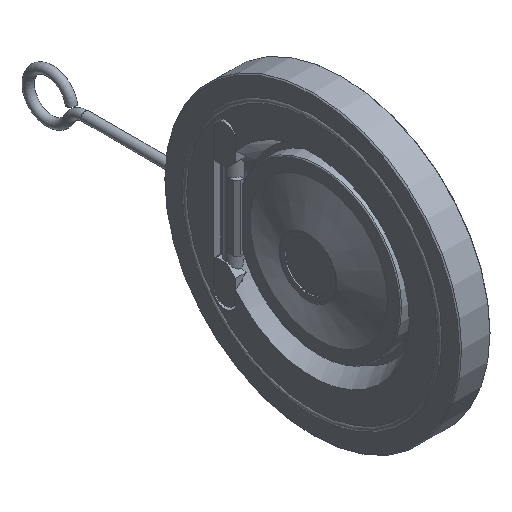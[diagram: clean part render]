
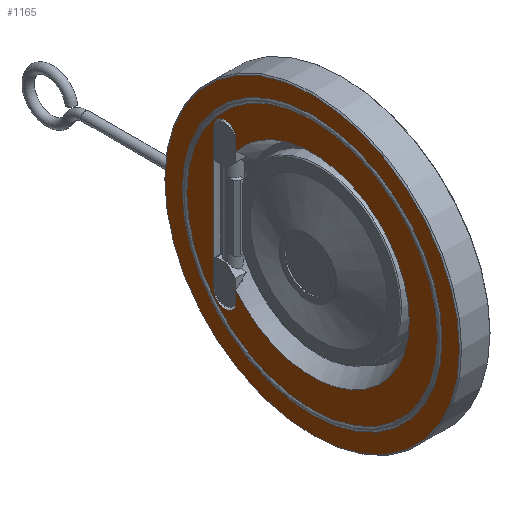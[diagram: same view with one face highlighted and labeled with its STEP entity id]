
A CAD part, isometric view. The second image highlights one B-rep face of the part: STEP entity #1165.
In plain terms, the highlighted planar face has unit normal (-1, 0, 0).
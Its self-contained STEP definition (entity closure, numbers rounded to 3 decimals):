
#38=FACE_BOUND('',#280,.T.);
#76=CIRCLE('',#1289,5.);
#77=CIRCLE('',#1292,5.);
#78=CIRCLE('',#1296,67.5);
#79=CIRCLE('',#1297,44.5);
#80=CIRCLE('',#1298,44.5);
#131=PLANE('',#1295);
#207=FACE_OUTER_BOUND('',#279,.T.);
#279=EDGE_LOOP('',(#1008));
#280=EDGE_LOOP('',(#1009,#1010,#1011,#1012,#1013,#1014,#1015));
#379=LINE('',#2438,#465);
#382=LINE('',#2446,#468);
#383=LINE('',#2452,#469);
#465=VECTOR('',#1579,10.);
#468=VECTOR('',#1588,10.);
#469=VECTOR('',#1591,10.);
#562=VERTEX_POINT('',#2431);
#563=VERTEX_POINT('',#2432);
#564=VERTEX_POINT('',#2437);
#565=VERTEX_POINT('',#2441);
#566=VERTEX_POINT('',#2445);
#567=VERTEX_POINT('',#2451);
#568=VERTEX_POINT('',#2457);
#569=VERTEX_POINT('',#2459);
#713=EDGE_CURVE('',#562,#563,#76,.T.);
#716=EDGE_CURVE('',#563,#564,#379,.T.);
#718=EDGE_CURVE('',#564,#565,#77,.T.);
#720=EDGE_CURVE('',#565,#566,#382,.T.);
#722=EDGE_CURVE('',#567,#562,#383,.T.);
#724=EDGE_CURVE('',#568,#568,#78,.T.);
#725=EDGE_CURVE('',#566,#569,#79,.T.);
#726=EDGE_CURVE('',#569,#567,#80,.T.);
#1008=ORIENTED_EDGE('',*,*,#724,.F.);
#1009=ORIENTED_EDGE('',*,*,#722,.T.);
#1010=ORIENTED_EDGE('',*,*,#713,.T.);
#1011=ORIENTED_EDGE('',*,*,#716,.T.);
#1012=ORIENTED_EDGE('',*,*,#718,.T.);
#1013=ORIENTED_EDGE('',*,*,#720,.T.);
#1014=ORIENTED_EDGE('',*,*,#725,.T.);
#1015=ORIENTED_EDGE('',*,*,#726,.T.);
#1165=ADVANCED_FACE('',(#207,#38),#131,.T.);
#1289=AXIS2_PLACEMENT_3D('',#2433,#1573,#1574);
#1292=AXIS2_PLACEMENT_3D('',#2442,#1583,#1584);
#1295=AXIS2_PLACEMENT_3D('',#2456,#1592,#1593);
#1296=AXIS2_PLACEMENT_3D('',#2458,#1594,#1595);
#1297=AXIS2_PLACEMENT_3D('',#2460,#1596,#1597);
#1298=AXIS2_PLACEMENT_3D('',#2461,#1598,#1599);
#1573=DIRECTION('center_axis',(1.,0.,0.));
#1574=DIRECTION('ref_axis',(0.,-1.,0.));
#1579=DIRECTION('',(0.,0.,1.));
#1583=DIRECTION('center_axis',(1.,0.,0.));
#1584=DIRECTION('ref_axis',(0.,1.,0.));
#1588=DIRECTION('',(0.,0.,-1.));
#1591=DIRECTION('',(0.,0.,-1.));
#1592=DIRECTION('center_axis',(-1.,0.,0.));
#1593=DIRECTION('ref_axis',(0.,0.,1.));
#1594=DIRECTION('center_axis',(1.,0.,0.));
#1595=DIRECTION('ref_axis',(0.,0.,-1.));
#1596=DIRECTION('center_axis',(1.,0.,0.));
#1597=DIRECTION('ref_axis',(0.,1.,0.));
#1598=DIRECTION('center_axis',(1.,0.,0.));
#1599=DIRECTION('ref_axis',(0.,1.,0.));
#2431=CARTESIAN_POINT('',(-7.,35.,-32.5));
#2432=CARTESIAN_POINT('',(-7.,45.,-32.5));
#2433=CARTESIAN_POINT('Origin',(-7.,40.,-32.5));
#2437=CARTESIAN_POINT('',(-7.,45.,32.5));
#2438=CARTESIAN_POINT('',(-7.,45.,-50.));
#2441=CARTESIAN_POINT('',(-7.,35.,32.5));
#2442=CARTESIAN_POINT('Origin',(-7.,40.,32.5));
#2445=CARTESIAN_POINT('',(-7.,35.,27.482));
#2446=CARTESIAN_POINT('',(-7.,35.,-17.5));
#2451=CARTESIAN_POINT('',(-7.,35.,-27.482));
#2452=CARTESIAN_POINT('',(-7.,35.,-17.5));
#2456=CARTESIAN_POINT('Origin',(-7.,0.,-67.5));
#2457=CARTESIAN_POINT('',(-7.,0.,67.5));
#2458=CARTESIAN_POINT('Origin',(-7.,0.,0.));
#2459=CARTESIAN_POINT('',(-7.,-44.5,0.));
#2460=CARTESIAN_POINT('Origin',(-7.,0.,0.));
#2461=CARTESIAN_POINT('Origin',(-7.,0.,0.));
